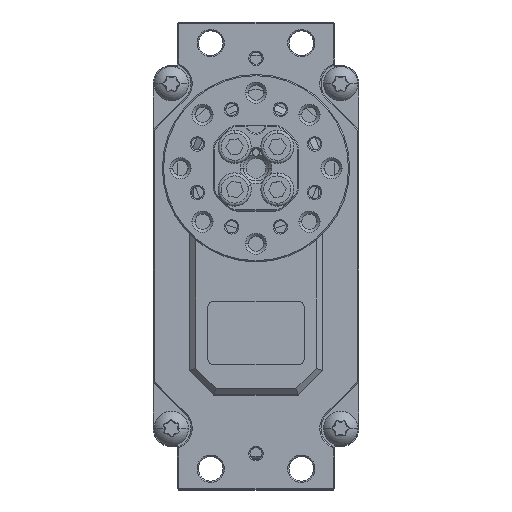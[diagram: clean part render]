
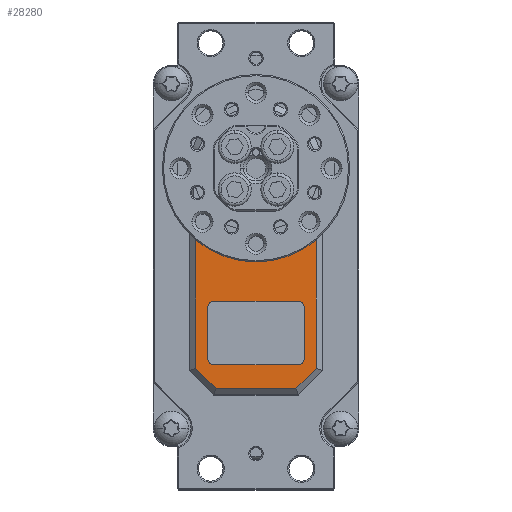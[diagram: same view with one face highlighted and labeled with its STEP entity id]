
A CAD part, top view. The second image highlights one B-rep face of the part: STEP entity #28280.
In plain terms, the highlighted planar face has unit normal (0, 0, 1).
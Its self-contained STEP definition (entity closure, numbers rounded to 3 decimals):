
#13 = CARTESIAN_POINT ( 'NONE',  ( -10., -10.5, 3.9 ) ) ;
#254 = CARTESIAN_POINT ( 'NONE',  ( 7., -32.5, 3.9 ) ) ;
#570 = DIRECTION ( 'NONE',  ( 0., 1., 0. ) ) ;
#783 = CARTESIAN_POINT ( 'NONE',  ( -6.586, -36.5, 3.9 ) ) ;
#957 = EDGE_CURVE ( 'NONE', #33335, #37775, #20698, .T. ) ;
#960 = VECTOR ( 'NONE', #19158, 1000. ) ;
#1005 = EDGE_CURVE ( 'NONE', #8991, #4175, #34233, .T. ) ;
#1118 = CARTESIAN_POINT ( 'NONE',  ( 8., 14., 3.9 ) ) ;
#1349 = DIRECTION ( 'NONE',  ( 1., 0., 0. ) ) ;
#1469 = CARTESIAN_POINT ( 'NONE',  ( -14., -32.5, 3.9 ) ) ;
#2361 = FACE_OUTER_BOUND ( 'NONE', #2503, .T. ) ;
#2503 = EDGE_LOOP ( 'NONE', ( #4955, #25772, #35865, #15000, #7246, #27504, #38539, #4713 ) ) ;
#2635 = VECTOR ( 'NONE', #6014, 1000. ) ;
#2999 = AXIS2_PLACEMENT_3D ( 'NONE', #21748, #33677, #24082 ) ;
#3812 = VECTOR ( 'NONE', #10545, 1000. ) ;
#3820 = VECTOR ( 'NONE', #10671, 1000. ) ;
#4075 = VERTEX_POINT ( 'NONE', #9153 ) ;
#4175 = VERTEX_POINT ( 'NONE', #9932 ) ;
#4713 = ORIENTED_EDGE ( 'NONE', *, *, #32515, .T. ) ;
#4955 = ORIENTED_EDGE ( 'NONE', *, *, #38624, .T. ) ;
#5068 = ORIENTED_EDGE ( 'NONE', *, *, #5735, .T. ) ;
#5193 = EDGE_CURVE ( 'NONE', #4075, #5493, #30108, .T. ) ;
#5472 = VECTOR ( 'NONE', #35394, 1000. ) ;
#5493 = VERTEX_POINT ( 'NONE', #18768 ) ;
#5735 = EDGE_CURVE ( 'NONE', #4175, #15578, #23259, .T. ) ;
#6014 = DIRECTION ( 'NONE',  ( 0., 1., 0. ) ) ;
#6185 = CARTESIAN_POINT ( 'NONE',  ( 0., -10.5, 3.9 ) ) ;
#6553 = CARTESIAN_POINT ( 'NONE',  ( -7., -23., 3.9 ) ) ;
#6912 = ORIENTED_EDGE ( 'NONE', *, *, #957, .T. ) ;
#7246 = ORIENTED_EDGE ( 'NONE', *, *, #8315, .T. ) ;
#7528 = VECTOR ( 'NONE', #15325, 1000. ) ;
#7603 = DIRECTION ( 'NONE',  ( 0., 0., -1. ) ) ;
#8315 = EDGE_CURVE ( 'NONE', #11216, #4075, #35781, .T. ) ;
#8437 = PLANE ( 'NONE',  #21651 ) ;
#8483 = VECTOR ( 'NONE', #27818, 1000. ) ;
#8752 = CARTESIAN_POINT ( 'NONE',  ( -10., -33.086, 3.9 ) ) ;
#8991 = VERTEX_POINT ( 'NONE', #34864 ) ;
#9153 = CARTESIAN_POINT ( 'NONE',  ( 10., -33.086, 3.9 ) ) ;
#9648 = EDGE_CURVE ( 'NONE', #21635, #11593, #24674, .T. ) ;
#9932 = CARTESIAN_POINT ( 'NONE',  ( -8., -23., 3.9 ) ) ;
#10545 = DIRECTION ( 'NONE',  ( 0., 1., 0. ) ) ;
#10626 = DIRECTION ( 'NONE',  ( 1., 0., 0. ) ) ;
#10671 = DIRECTION ( 'NONE',  ( -1., 0., 0. ) ) ;
#10872 = ORIENTED_EDGE ( 'NONE', *, *, #23282, .T. ) ;
#11216 = VERTEX_POINT ( 'NONE', #12323 ) ;
#11593 = VERTEX_POINT ( 'NONE', #8752 ) ;
#11689 = VERTEX_POINT ( 'NONE', #18753 ) ;
#12323 = CARTESIAN_POINT ( 'NONE',  ( 6.586, -36.5, 3.9 ) ) ;
#12445 = DIRECTION ( 'NONE',  ( 0., 0., -1. ) ) ;
#12577 = CARTESIAN_POINT ( 'NONE',  ( -7., -31.5, 3.9 ) ) ;
#13224 = CARTESIAN_POINT ( 'NONE',  ( -14., -10.5, 3.9 ) ) ;
#13282 = VERTEX_POINT ( 'NONE', #33364 ) ;
#13742 = AXIS2_PLACEMENT_3D ( 'NONE', #35586, #29509, #14873 ) ;
#13769 = VECTOR ( 'NONE', #23407, 1000. ) ;
#14344 = FACE_BOUND ( 'NONE', #28754, .T. ) ;
#14435 = LINE ( 'NONE', #26339, #13769 ) ;
#14873 = DIRECTION ( 'NONE',  ( 1., 0., 0. ) ) ;
#15000 = ORIENTED_EDGE ( 'NONE', *, *, #32975, .F. ) ;
#15168 = EDGE_CURVE ( 'NONE', #11593, #32070, #27386, .T. ) ;
#15325 = DIRECTION ( 'NONE',  ( -0.707, 0.707, 0. ) ) ;
#15356 = LINE ( 'NONE', #30783, #8483 ) ;
#15578 = VERTEX_POINT ( 'NONE', #35572 ) ;
#15815 = DIRECTION ( 'NONE',  ( -1., 0., 0. ) ) ;
#15982 = ORIENTED_EDGE ( 'NONE', *, *, #1005, .T. ) ;
#16346 = AXIS2_PLACEMENT_3D ( 'NONE', #31110, #7603, #1349 ) ;
#16437 = CARTESIAN_POINT ( 'NONE',  ( 8., -23., 3.9 ) ) ;
#16562 = VECTOR ( 'NONE', #570, 1000. ) ;
#16691 = VECTOR ( 'NONE', #15815, 1000. ) ;
#17597 = EDGE_CURVE ( 'NONE', #37775, #38136, #22274, .T. ) ;
#18027 = CIRCLE ( 'NONE', #2999, 1. ) ;
#18355 = LINE ( 'NONE', #6185, #16691 ) ;
#18418 = CARTESIAN_POINT ( 'NONE',  ( -10., 0., 3.9 ) ) ;
#18437 = CARTESIAN_POINT ( 'NONE',  ( 9.67, -10.5, 3.9 ) ) ;
#18753 = CARTESIAN_POINT ( 'NONE',  ( -9.67, -10.5, 3.9 ) ) ;
#18768 = CARTESIAN_POINT ( 'NONE',  ( 10., -10.5, 3.9 ) ) ;
#18900 = DIRECTION ( 'NONE',  ( -1., 0., 0. ) ) ;
#19158 = DIRECTION ( 'NONE',  ( 0., -1., 0. ) ) ;
#20698 = CIRCLE ( 'NONE', #16346, 1. ) ;
#21449 = DIRECTION ( 'NONE',  ( 1., 0., 0. ) ) ;
#21635 = VERTEX_POINT ( 'NONE', #36844 ) ;
#21651 = AXIS2_PLACEMENT_3D ( 'NONE', #28799, #25682, #10626 ) ;
#21715 = EDGE_CURVE ( 'NONE', #15578, #33335, #15356, .T. ) ;
#21748 = CARTESIAN_POINT ( 'NONE',  ( 7., -31.5, 3.9 ) ) ;
#21854 = LINE ( 'NONE', #1469, #3820 ) ;
#22274 = LINE ( 'NONE', #1118, #960 ) ;
#23211 = VERTEX_POINT ( 'NONE', #18437 ) ;
#23259 = CIRCLE ( 'NONE', #33275, 1. ) ;
#23282 = EDGE_CURVE ( 'NONE', #38136, #24860, #18027, .T. ) ;
#23407 = DIRECTION ( 'NONE',  ( -1., 0., 0. ) ) ;
#23723 = CIRCLE ( 'NONE', #13742, 14.274 ) ;
#24082 = DIRECTION ( 'NONE',  ( 1., 0., 0. ) ) ;
#24674 = LINE ( 'NONE', #783, #7528 ) ;
#24860 = VERTEX_POINT ( 'NONE', #254 ) ;
#25261 = AXIS2_PLACEMENT_3D ( 'NONE', #12577, #30376, #27999 ) ;
#25682 = DIRECTION ( 'NONE',  ( 0., 0., 1. ) ) ;
#25772 = ORIENTED_EDGE ( 'NONE', *, *, #15168, .F. ) ;
#26339 = CARTESIAN_POINT ( 'NONE',  ( 0., -36.5, 3.9 ) ) ;
#26518 = EDGE_CURVE ( 'NONE', #13282, #8991, #38370, .T. ) ;
#27064 = ORIENTED_EDGE ( 'NONE', *, *, #34272, .T. ) ;
#27362 = ORIENTED_EDGE ( 'NONE', *, *, #17597, .T. ) ;
#27386 = LINE ( 'NONE', #18418, #16562 ) ;
#27504 = ORIENTED_EDGE ( 'NONE', *, *, #5193, .T. ) ;
#27818 = DIRECTION ( 'NONE',  ( 1., 0., 0. ) ) ;
#27999 = DIRECTION ( 'NONE',  ( 1., 0., 0. ) ) ;
#28280 = ADVANCED_FACE ( 'NONE', ( #14344, #2361 ), #8437, .T. ) ;
#28754 = EDGE_LOOP ( 'NONE', ( #6912, #27362, #10872, #27064, #30976, #15982, #5068, #31445 ) ) ;
#28758 = EDGE_CURVE ( 'NONE', #5493, #23211, #18355, .T. ) ;
#28799 = CARTESIAN_POINT ( 'NONE',  ( -14., 14., 3.9 ) ) ;
#29509 = DIRECTION ( 'NONE',  ( 0., 0., -1. ) ) ;
#29512 = CARTESIAN_POINT ( 'NONE',  ( 6.586, -36.5, 3.9 ) ) ;
#29704 = CARTESIAN_POINT ( 'NONE',  ( 10., 14., 3.9 ) ) ;
#30108 = LINE ( 'NONE', #29704, #2635 ) ;
#30376 = DIRECTION ( 'NONE',  ( 0., 0., -1. ) ) ;
#30627 = LINE ( 'NONE', #13224, #31160 ) ;
#30783 = CARTESIAN_POINT ( 'NONE',  ( -14., -22., 3.9 ) ) ;
#30976 = ORIENTED_EDGE ( 'NONE', *, *, #26518, .T. ) ;
#31110 = CARTESIAN_POINT ( 'NONE',  ( 7., -23., 3.9 ) ) ;
#31160 = VECTOR ( 'NONE', #18900, 1000. ) ;
#31445 = ORIENTED_EDGE ( 'NONE', *, *, #21715, .T. ) ;
#31488 = CARTESIAN_POINT ( 'NONE',  ( -8., 14., 3.9 ) ) ;
#32070 = VERTEX_POINT ( 'NONE', #13 ) ;
#32515 = EDGE_CURVE ( 'NONE', #23211, #11689, #23723, .T. ) ;
#32975 = EDGE_CURVE ( 'NONE', #11216, #21635, #14435, .T. ) ;
#33275 = AXIS2_PLACEMENT_3D ( 'NONE', #6553, #12445, #21449 ) ;
#33335 = VERTEX_POINT ( 'NONE', #35687 ) ;
#33364 = CARTESIAN_POINT ( 'NONE',  ( -7., -32.5, 3.9 ) ) ;
#33677 = DIRECTION ( 'NONE',  ( 0., 0., -1. ) ) ;
#34233 = LINE ( 'NONE', #31488, #3812 ) ;
#34272 = EDGE_CURVE ( 'NONE', #24860, #13282, #21854, .T. ) ;
#34864 = CARTESIAN_POINT ( 'NONE',  ( -8., -31.5, 3.9 ) ) ;
#35394 = DIRECTION ( 'NONE',  ( 0.707, 0.707, 0. ) ) ;
#35572 = CARTESIAN_POINT ( 'NONE',  ( -7., -22., 3.9 ) ) ;
#35586 = CARTESIAN_POINT ( 'NONE',  ( 0., 0., 3.9 ) ) ;
#35687 = CARTESIAN_POINT ( 'NONE',  ( 7., -22., 3.9 ) ) ;
#35781 = LINE ( 'NONE', #29512, #5472 ) ;
#35865 = ORIENTED_EDGE ( 'NONE', *, *, #9648, .F. ) ;
#36844 = CARTESIAN_POINT ( 'NONE',  ( -6.586, -36.5, 3.9 ) ) ;
#37775 = VERTEX_POINT ( 'NONE', #16437 ) ;
#38136 = VERTEX_POINT ( 'NONE', #38674 ) ;
#38370 = CIRCLE ( 'NONE', #25261, 1. ) ;
#38539 = ORIENTED_EDGE ( 'NONE', *, *, #28758, .T. ) ;
#38624 = EDGE_CURVE ( 'NONE', #11689, #32070, #30627, .T. ) ;
#38674 = CARTESIAN_POINT ( 'NONE',  ( 8., -31.5, 3.9 ) ) ;
